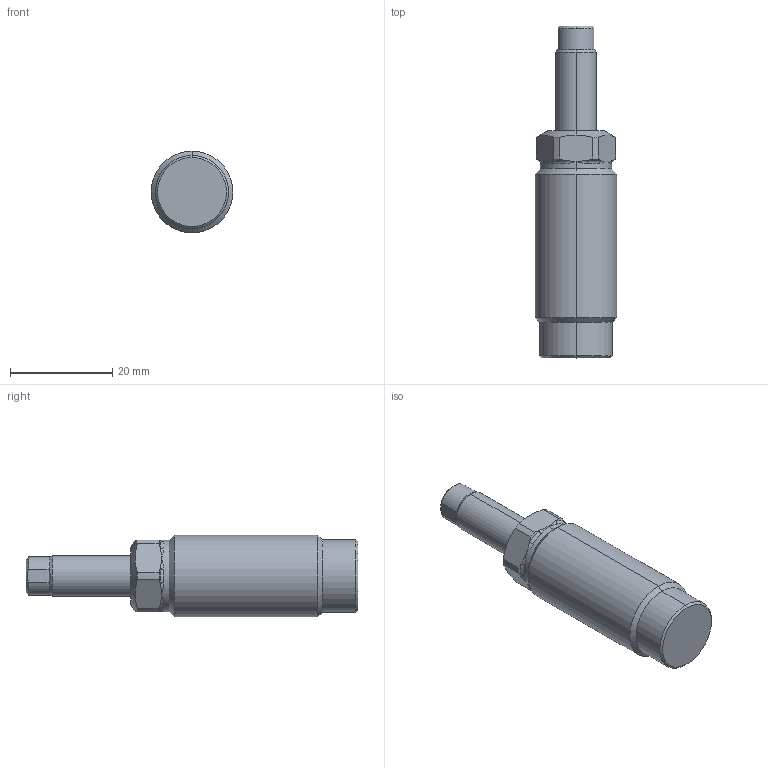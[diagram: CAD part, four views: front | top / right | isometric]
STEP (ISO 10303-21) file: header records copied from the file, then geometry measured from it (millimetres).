
FILE_DESCRIPTION((' '),'2;1');
FILE_NAME( 'TGM01-15.x_t.stp', '2024-08-27T13:43:49', (' '), ('--- Datakit www.datakit.com---'), ' Datakit CrossCadWare V2024.1 Dec 21 2023', 'Mastercam 2025', ' ');
FILE_SCHEMA(('AUTOMOTIVE_DESIGN { 1 0 10303 214 1 1 1 1 }'));
Length unit declared in the file: millimetre
Products named in the file (1): TGM01-15
Bounding box: 16 x 65 x 16 mm (x, y, z)
Volume: 8354.5 mm3; surface area: 3616.6 mm2
Topology: 2 solids, 2 shells, 77 faces, 189 edges, 107 vertices
Faces by surface type: cylinder 22, cone 20, plane 17, bspline 12, torus 6
Entity records: 3763 total; most frequent: CARTESIAN_POINT 2052, ORIENTED_EDGE 354, DIRECTION 348, EDGE_CURVE 177, AXIS2_PLACEMENT_3D 151, VERTEX_POINT 107, EDGE_LOOP 80, CIRCLE 79
